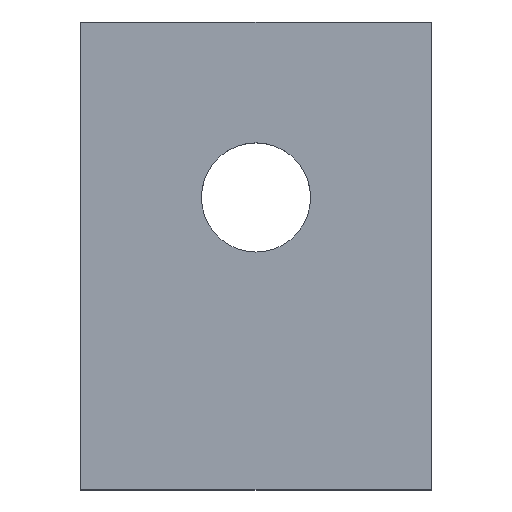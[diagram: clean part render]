
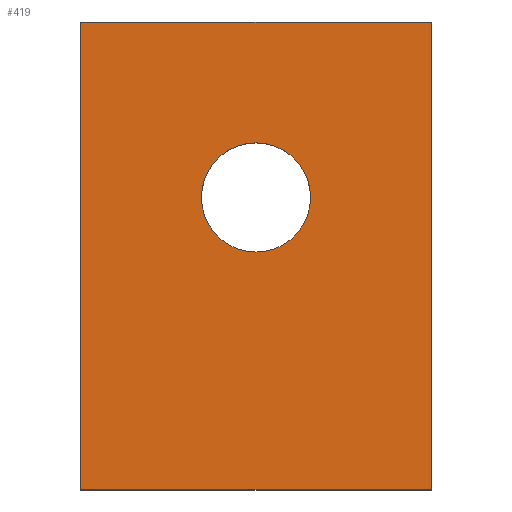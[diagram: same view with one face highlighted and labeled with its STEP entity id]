
A CAD part, top view. The second image highlights one B-rep face of the part: STEP entity #419.
In plain terms, the highlighted planar face has unit normal (0, 0, 1).
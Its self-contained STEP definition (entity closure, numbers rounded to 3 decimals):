
#24 = VERTEX_POINT('',#25);
#25 = CARTESIAN_POINT('',(-45.,0.,12.));
#32 = PLANE('',#33);
#33 = AXIS2_PLACEMENT_3D('',#34,#35,#36);
#34 = CARTESIAN_POINT('',(-45.,0.,0.));
#35 = DIRECTION('',(0.,1.,0.));
#36 = DIRECTION('',(1.,0.,0.));
#44 = PLANE('',#45);
#45 = AXIS2_PLACEMENT_3D('',#46,#47,#48);
#46 = CARTESIAN_POINT('',(-45.,120.,0.));
#47 = DIRECTION('',(1.,0.,-0.));
#48 = DIRECTION('',(0.,-1.,0.));
#56 = EDGE_CURVE('',#24,#57,#59,.T.);
#57 = VERTEX_POINT('',#58);
#58 = CARTESIAN_POINT('',(45.,0.,12.));
#59 = SURFACE_CURVE('',#60,(#64,#71),.PCURVE_S1.);
#60 = LINE('',#61,#62);
#61 = CARTESIAN_POINT('',(-45.,0.,12.));
#62 = VECTOR('',#63,1.);
#63 = DIRECTION('',(1.,0.,0.));
#64 = PCURVE('',#32,#65);
#65 = DEFINITIONAL_REPRESENTATION('',(#66),#70);
#66 = LINE('',#67,#68);
#67 = CARTESIAN_POINT('',(0.,-12.));
#68 = VECTOR('',#69,1.);
#69 = DIRECTION('',(1.,0.));
#70 = ( GEOMETRIC_REPRESENTATION_CONTEXT(2) 
PARAMETRIC_REPRESENTATION_CONTEXT() REPRESENTATION_CONTEXT('2D SPACE',''
  ) );
#71 = PCURVE('',#72,#77);
#72 = PLANE('',#73);
#73 = AXIS2_PLACEMENT_3D('',#74,#75,#76);
#74 = CARTESIAN_POINT('',(0.,60.,12.));
#75 = DIRECTION('',(0.,0.,1.));
#76 = DIRECTION('',(1.,0.,-0.));
#77 = DEFINITIONAL_REPRESENTATION('',(#78),#82);
#78 = LINE('',#79,#80);
#79 = CARTESIAN_POINT('',(-45.,-60.));
#80 = VECTOR('',#81,1.);
#81 = DIRECTION('',(1.,0.));
#82 = ( GEOMETRIC_REPRESENTATION_CONTEXT(2) 
PARAMETRIC_REPRESENTATION_CONTEXT() REPRESENTATION_CONTEXT('2D SPACE',''
  ) );
#100 = PLANE('',#101);
#101 = AXIS2_PLACEMENT_3D('',#102,#103,#104);
#102 = CARTESIAN_POINT('',(45.,0.,0.));
#103 = DIRECTION('',(-1.,0.,0.));
#104 = DIRECTION('',(0.,1.,0.));
#142 = EDGE_CURVE('',#57,#143,#145,.T.);
#143 = VERTEX_POINT('',#144);
#144 = CARTESIAN_POINT('',(45.,120.,12.));
#145 = SURFACE_CURVE('',#146,(#150,#157),.PCURVE_S1.);
#146 = LINE('',#147,#148);
#147 = CARTESIAN_POINT('',(45.,0.,12.));
#148 = VECTOR('',#149,1.);
#149 = DIRECTION('',(0.,1.,0.));
#150 = PCURVE('',#100,#151);
#151 = DEFINITIONAL_REPRESENTATION('',(#152),#156);
#152 = LINE('',#153,#154);
#153 = CARTESIAN_POINT('',(0.,-12.));
#154 = VECTOR('',#155,1.);
#155 = DIRECTION('',(1.,0.));
#156 = ( GEOMETRIC_REPRESENTATION_CONTEXT(2) 
PARAMETRIC_REPRESENTATION_CONTEXT() REPRESENTATION_CONTEXT('2D SPACE',''
  ) );
#157 = PCURVE('',#72,#158);
#158 = DEFINITIONAL_REPRESENTATION('',(#159),#163);
#159 = LINE('',#160,#161);
#160 = CARTESIAN_POINT('',(45.,-60.));
#161 = VECTOR('',#162,1.);
#162 = DIRECTION('',(0.,1.));
#163 = ( GEOMETRIC_REPRESENTATION_CONTEXT(2) 
PARAMETRIC_REPRESENTATION_CONTEXT() REPRESENTATION_CONTEXT('2D SPACE',''
  ) );
#181 = PLANE('',#182);
#182 = AXIS2_PLACEMENT_3D('',#183,#184,#185);
#183 = CARTESIAN_POINT('',(45.,120.,0.));
#184 = DIRECTION('',(0.,-1.,0.));
#185 = DIRECTION('',(-1.,0.,0.));
#218 = EDGE_CURVE('',#143,#219,#221,.T.);
#219 = VERTEX_POINT('',#220);
#220 = CARTESIAN_POINT('',(-45.,120.,12.));
#221 = SURFACE_CURVE('',#222,(#226,#233),.PCURVE_S1.);
#222 = LINE('',#223,#224);
#223 = CARTESIAN_POINT('',(45.,120.,12.));
#224 = VECTOR('',#225,1.);
#225 = DIRECTION('',(-1.,0.,0.));
#226 = PCURVE('',#181,#227);
#227 = DEFINITIONAL_REPRESENTATION('',(#228),#232);
#228 = LINE('',#229,#230);
#229 = CARTESIAN_POINT('',(0.,-12.));
#230 = VECTOR('',#231,1.);
#231 = DIRECTION('',(1.,0.));
#232 = ( GEOMETRIC_REPRESENTATION_CONTEXT(2) 
PARAMETRIC_REPRESENTATION_CONTEXT() REPRESENTATION_CONTEXT('2D SPACE',''
  ) );
#233 = PCURVE('',#72,#234);
#234 = DEFINITIONAL_REPRESENTATION('',(#235),#239);
#235 = LINE('',#236,#237);
#236 = CARTESIAN_POINT('',(45.,60.));
#237 = VECTOR('',#238,1.);
#238 = DIRECTION('',(-1.,0.));
#239 = ( GEOMETRIC_REPRESENTATION_CONTEXT(2) 
PARAMETRIC_REPRESENTATION_CONTEXT() REPRESENTATION_CONTEXT('2D SPACE',''
  ) );
#289 = EDGE_CURVE('',#219,#24,#290,.T.);
#290 = SURFACE_CURVE('',#291,(#295,#302),.PCURVE_S1.);
#291 = LINE('',#292,#293);
#292 = CARTESIAN_POINT('',(-45.,120.,12.));
#293 = VECTOR('',#294,1.);
#294 = DIRECTION('',(0.,-1.,0.));
#295 = PCURVE('',#44,#296);
#296 = DEFINITIONAL_REPRESENTATION('',(#297),#301);
#297 = LINE('',#298,#299);
#298 = CARTESIAN_POINT('',(0.,-12.));
#299 = VECTOR('',#300,1.);
#300 = DIRECTION('',(1.,0.));
#301 = ( GEOMETRIC_REPRESENTATION_CONTEXT(2) 
PARAMETRIC_REPRESENTATION_CONTEXT() REPRESENTATION_CONTEXT('2D SPACE',''
  ) );
#302 = PCURVE('',#72,#303);
#303 = DEFINITIONAL_REPRESENTATION('',(#304),#308);
#304 = LINE('',#305,#306);
#305 = CARTESIAN_POINT('',(-45.,60.));
#306 = VECTOR('',#307,1.);
#307 = DIRECTION('',(0.,-1.));
#308 = ( GEOMETRIC_REPRESENTATION_CONTEXT(2) 
PARAMETRIC_REPRESENTATION_CONTEXT() REPRESENTATION_CONTEXT('2D SPACE',''
  ) );
#338 = VERTEX_POINT('',#339);
#339 = CARTESIAN_POINT('',(14.,75.,12.));
#346 = CYLINDRICAL_SURFACE('',#347,14.);
#347 = AXIS2_PLACEMENT_3D('',#348,#349,#350);
#348 = CARTESIAN_POINT('',(0.,75.,0.));
#349 = DIRECTION('',(-0.,-0.,-1.));
#350 = DIRECTION('',(1.,0.,-0.));
#365 = EDGE_CURVE('',#338,#338,#366,.T.);
#366 = SURFACE_CURVE('',#367,(#372,#379),.PCURVE_S1.);
#367 = CIRCLE('',#368,14.);
#368 = AXIS2_PLACEMENT_3D('',#369,#370,#371);
#369 = CARTESIAN_POINT('',(0.,75.,12.));
#370 = DIRECTION('',(0.,0.,1.));
#371 = DIRECTION('',(1.,0.,-0.));
#372 = PCURVE('',#346,#373);
#373 = DEFINITIONAL_REPRESENTATION('',(#374),#378);
#374 = LINE('',#375,#376);
#375 = CARTESIAN_POINT('',(-0.,-12.));
#376 = VECTOR('',#377,1.);
#377 = DIRECTION('',(-1.,0.));
#378 = ( GEOMETRIC_REPRESENTATION_CONTEXT(2) 
PARAMETRIC_REPRESENTATION_CONTEXT() REPRESENTATION_CONTEXT('2D SPACE',''
  ) );
#379 = PCURVE('',#72,#380);
#380 = DEFINITIONAL_REPRESENTATION('',(#381),#385);
#381 = CIRCLE('',#382,14.);
#382 = AXIS2_PLACEMENT_2D('',#383,#384);
#383 = CARTESIAN_POINT('',(0.,15.));
#384 = DIRECTION('',(1.,0.));
#385 = ( GEOMETRIC_REPRESENTATION_CONTEXT(2) 
PARAMETRIC_REPRESENTATION_CONTEXT() REPRESENTATION_CONTEXT('2D SPACE',''
  ) );
#419 = ADVANCED_FACE('',(#420,#426),#72,.T.);
#420 = FACE_BOUND('',#421,.T.);
#421 = EDGE_LOOP('',(#422,#423,#424,#425));
#422 = ORIENTED_EDGE('',*,*,#56,.T.);
#423 = ORIENTED_EDGE('',*,*,#142,.T.);
#424 = ORIENTED_EDGE('',*,*,#218,.T.);
#425 = ORIENTED_EDGE('',*,*,#289,.T.);
#426 = FACE_BOUND('',#427,.F.);
#427 = EDGE_LOOP('',(#428));
#428 = ORIENTED_EDGE('',*,*,#365,.T.);
